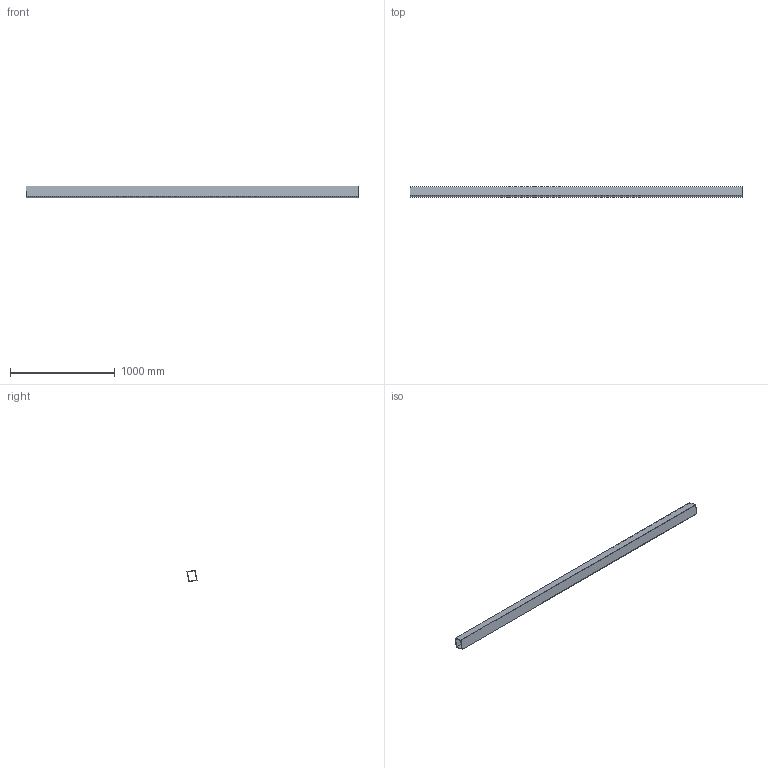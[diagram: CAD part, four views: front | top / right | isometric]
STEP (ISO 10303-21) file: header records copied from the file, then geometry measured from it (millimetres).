
FILE_DESCRIPTION(('golf model'),'2;1');
FILE_NAME('golf','',(''),(''),'golf_step_io','golf','');
FILE_SCHEMA(('AUTOMOTIVE_DESIGN { 1 0 10303 214 1 1 1 1 }'));
Length unit declared in the file: millimetre
Products named in the file (2): ASSEMBLY; bed.rail_beam_top
Assembly tree (1 placements, depth 2):
  ASSEMBLY
    bed.rail_beam_top
Bounding box: 3176 x 96.15 x 112.37 mm (x, y, z)
Volume: 5399200 mm3; surface area: 2163080 mm2
Topology: 1 solids, 1 shells, 10 faces, 24 edges, 16 vertices
Faces by surface type: plane 10
Entity records: 326 total; most frequent: CARTESIAN_POINT 52, DIRECTION 48, ORIENTED_EDGE 48, VECTOR 24, LINE 24, EDGE_CURVE 24, VERTEX_POINT 16, AXIS2_PLACEMENT_3D 12
